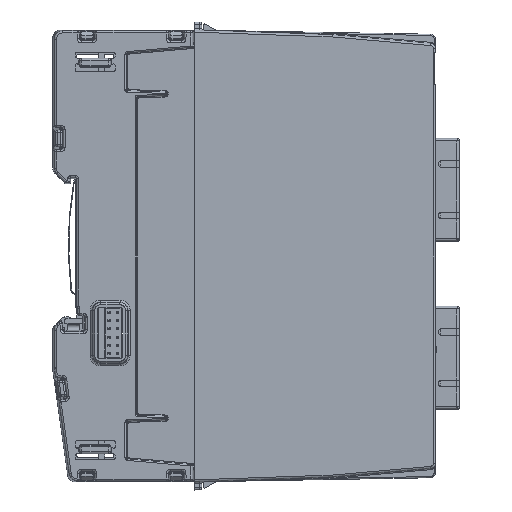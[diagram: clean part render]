
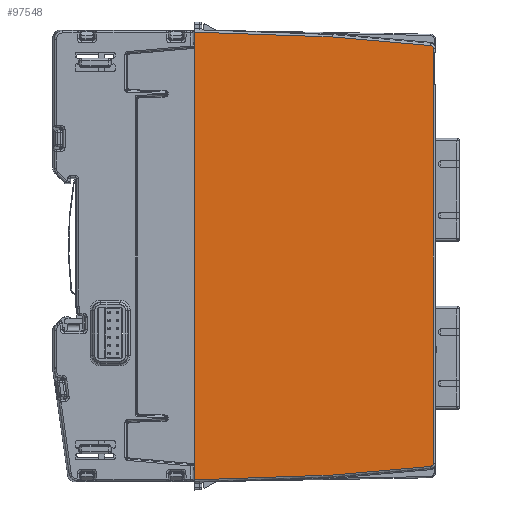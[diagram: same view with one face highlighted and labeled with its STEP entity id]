
A CAD part, left-side view. The second image highlights one B-rep face of the part: STEP entity #97548.
In plain terms, the highlighted planar face has unit normal (-1, -0.018, 0).
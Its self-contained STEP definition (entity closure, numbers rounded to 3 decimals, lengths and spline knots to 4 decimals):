
#6269=ELLIPSE('',#104796,0.0315,0.0315);
#6270=ELLIPSE('',#104797,0.0315,0.0315);
#10569=FACE_OUTER_BOUND('',#16089,.T.);
#16089=EDGE_LOOP('',(#74573,#74574,#74575,#74576,#74577,#74578,#74579,#74580,
#74581,#74582));
#23548=LINE('',#164647,#32671);
#23549=LINE('',#164651,#32672);
#23550=LINE('',#164653,#32673);
#23551=LINE('',#164655,#32674);
#23552=LINE('',#164657,#32675);
#23553=LINE('',#164659,#32676);
#23554=LINE('',#164663,#32677);
#23555=LINE('',#164666,#32678);
#32671=VECTOR('',#123324,39.3701);
#32672=VECTOR('',#123329,39.3701);
#32673=VECTOR('',#123330,39.3701);
#32674=VECTOR('',#123331,39.3701);
#32675=VECTOR('',#123332,39.3701);
#32676=VECTOR('',#123333,39.3701);
#32677=VECTOR('',#123336,39.3701);
#32678=VECTOR('',#123339,39.3701);
#41800=VERTEX_POINT('',#164644);
#41801=VERTEX_POINT('',#164646);
#41802=VERTEX_POINT('',#164650);
#41803=VERTEX_POINT('',#164652);
#41804=VERTEX_POINT('',#164654);
#41805=VERTEX_POINT('',#164656);
#41806=VERTEX_POINT('',#164658);
#41807=VERTEX_POINT('',#164660);
#41808=VERTEX_POINT('',#164662);
#41809=VERTEX_POINT('',#164664);
#53380=EDGE_CURVE('',#41801,#41800,#23548,.T.);
#53382=EDGE_CURVE('',#41800,#41802,#23549,.T.);
#53383=EDGE_CURVE('',#41803,#41802,#23550,.T.);
#53384=EDGE_CURVE('',#41803,#41804,#23551,.T.);
#53385=EDGE_CURVE('',#41804,#41805,#23552,.T.);
#53386=EDGE_CURVE('',#41805,#41806,#23553,.T.);
#53387=EDGE_CURVE('',#41806,#41807,#6269,.T.);
#53388=EDGE_CURVE('',#41807,#41808,#23554,.T.);
#53389=EDGE_CURVE('',#41808,#41809,#6270,.T.);
#53390=EDGE_CURVE('',#41809,#41801,#23555,.T.);
#74573=ORIENTED_EDGE('',*,*,#53380,.T.);
#74574=ORIENTED_EDGE('',*,*,#53382,.T.);
#74575=ORIENTED_EDGE('',*,*,#53383,.F.);
#74576=ORIENTED_EDGE('',*,*,#53384,.T.);
#74577=ORIENTED_EDGE('',*,*,#53385,.T.);
#74578=ORIENTED_EDGE('',*,*,#53386,.T.);
#74579=ORIENTED_EDGE('',*,*,#53387,.T.);
#74580=ORIENTED_EDGE('',*,*,#53388,.T.);
#74581=ORIENTED_EDGE('',*,*,#53389,.T.);
#74582=ORIENTED_EDGE('',*,*,#53390,.T.);
#88100=PLANE('',#104795);
#97548=ADVANCED_FACE('',(#10569),#88100,.T.);
#104795=AXIS2_PLACEMENT_3D('',#164649,#123327,#123328);
#104796=AXIS2_PLACEMENT_3D('',#164661,#123334,#123335);
#104797=AXIS2_PLACEMENT_3D('',#164665,#123337,#123338);
#123324=DIRECTION('',(-0.017,0.999,0.035));
#123327=DIRECTION('center_axis',(-1.,-0.017,
0.));
#123328=DIRECTION('ref_axis',(-0.017,1.,0.));
#123329=DIRECTION('',(0.,0.,-1.));
#123330=DIRECTION('',(0.,0.,1.));
#123331=DIRECTION('',(0.,0.,-1.));
#123332=DIRECTION('',(0.017,-0.999,0.035));
#123333=DIRECTION('',(0.017,-0.996,0.087));
#123334=DIRECTION('center_axis',(-1.,-0.017,
0.));
#123335=DIRECTION('ref_axis',(0.017,-1.,0.));
#123336=DIRECTION('',(0.,0.,1.));
#123337=DIRECTION('center_axis',(-1.,-0.017,
0.));
#123338=DIRECTION('ref_axis',(0.017,-1.,0.));
#123339=DIRECTION('',(-0.017,0.996,0.087));
#164644=CARTESIAN_POINT('',(-0.0227,-0.8686,0.1083));
#164646=CARTESIAN_POINT('',(0.0007,-2.2063,0.0616));
#164647=CARTESIAN_POINT('',(-0.0282,-0.5512,0.1194));
#164649=CARTESIAN_POINT('Origin',(-0.0295,-0.4749,
-2.0669));
#164650=CARTESIAN_POINT('',(-0.0227,-0.8686,-0.0312));
#164651=CARTESIAN_POINT('',(-0.0227,-0.8686,0.128));
#164652=CARTESIAN_POINT('',(-0.0227,-0.8686,-4.1027));
#164653=CARTESIAN_POINT('',(-0.0227,-0.8686,-7.5932));
#164654=CARTESIAN_POINT('',(-0.0227,-0.8686,-4.2421));
#164655=CARTESIAN_POINT('',(-0.0227,-0.8686,0.128));
#164656=CARTESIAN_POINT('',(0.0007,-2.2063,-4.1954));
#164657=CARTESIAN_POINT('',(-0.0282,-0.5512,-4.2532));
#164658=CARTESIAN_POINT('',(0.0174,-3.163,-4.1117));
#164659=CARTESIAN_POINT('',(-0.0261,-0.6728,-4.3296));
#164660=CARTESIAN_POINT('',(0.0179,-3.1918,-4.0803));
#164661=CARTESIAN_POINT('Origin',(0.0173,-3.1603,
-4.0803));
#164662=CARTESIAN_POINT('',(0.0179,-3.1918,-0.0535));
#164663=CARTESIAN_POINT('',(0.0179,-3.1918,-0.0535));
#164664=CARTESIAN_POINT('',(0.0174,-3.163,-0.0221));
#164665=CARTESIAN_POINT('Origin',(0.0173,-3.1603,
-0.0535));
#164666=CARTESIAN_POINT('',(-0.0261,-0.6728,0.1957));
